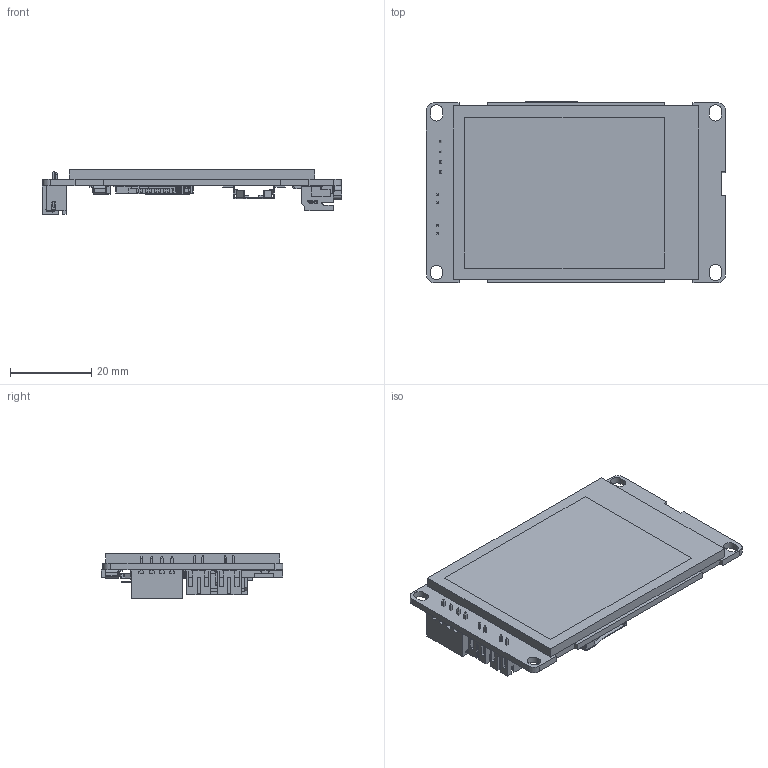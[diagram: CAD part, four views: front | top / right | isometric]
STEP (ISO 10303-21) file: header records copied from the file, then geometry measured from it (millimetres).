
FILE_DESCRIPTION(/* description */ (''),/* implementation_level */ '2;1');
FILE_NAME(/* name */ 'C:\Users\zhaoyunqi\Desktop\MA24-XH2.0\MA24-STP模型.stp',/* time_stamp */ '2025-12-26T14:07:09+08:00',/* author */ ('zhaoyunqi'),/* organization */ (''),/* preprocessor_version */ 'ST-DEVELOPER v18',/* originating_system */ 'Autodesk Inventor 2020',/* authorisation */ '');
FILE_SCHEMA (('AUTOMOTIVE_DESIGN { 1 0 10303 214 3 1 1 }'));
Products named in the file (18): 模型; 板体; FPC-0.50-14P; FPC-SMD_14P-P0.50_AFC07-S14FCA-00~FPC-SMD_14P-P0.50_AFC07-S14FCC-00~a
w7c; CR-927; BAT-SMD_MY-927-02~BAT-SMD_MY-927-02~GGM5; FPC-0.50-6P; FPC-SMD_P0.50-6P_LCS-SJ-H2.0~FPC-SMD_P0.50-6P_LCS-SJ-H2.0~GGM5; TF; SIM-SMD_TF110-AG1-004~SIM-SMD_TF110-AG1-004~GGM5; TYPE-C-16P; USB_TYPE-C-16P~USB-C_SMD-TYPE-C-31-M-12~GGM5; XH_4P-P2.50; CONN-SMD_4P-P2.50-WT~CONN-SMD_4P-P2.50-WT~GGM5; XH2.54-4P; CONN-TH_4P-P2.50-XH2.54-4P~CONN-TH_4P-P2.50-XH2.54-4P~GGM5; XH2.0-2P; CONN-TH_2P-P2.00_HX-2.0MM-2P-ZZ~CONN-TH_2P-P2.00_HX-2.0MM-2P-ZZ~nuVk
Assembly tree (18 placements, depth 3):
  模型
    板体
    FPC-0.50-14P
      FPC-SMD_14P-P0.50_AFC07-S14FCA-00~FPC-SMD_14P-P0.50_AFC07-S14FCC-00~a
w7c
    CR-927
      BAT-SMD_MY-927-02~BAT-SMD_MY-927-02~GGM5
    FPC-0.50-6P
      FPC-SMD_P0.50-6P_LCS-SJ-H2.0~FPC-SMD_P0.50-6P_LCS-SJ-H2.0~GGM5
    TF
      SIM-SMD_TF110-AG1-004~SIM-SMD_TF110-AG1-004~GGM5
    TYPE-C-16P
      USB_TYPE-C-16P~USB-C_SMD-TYPE-C-31-M-12~GGM5
    XH_4P-P2.50
      CONN-SMD_4P-P2.50-WT~CONN-SMD_4P-P2.50-WT~GGM5
    XH2.54-4P
      CONN-TH_4P-P2.50-XH2.54-4P~CONN-TH_4P-P2.50-XH2.54-4P~GGM5
    XH2.0-2P  x2
      CONN-TH_2P-P2.00_HX-2.0MM-2P-ZZ~CONN-TH_2P-P2.00_HX-2.0MM-2P-ZZ~nuVk
Bounding box: 73.5 x 44.65 x 11.05 mm (x, y, z)
Volume: 12566.4 mm3; surface area: 21516 mm2
Topology: 94 solids, 94 shells, 5672 faces, 15375 edges, 10024 vertices
Faces by surface type: plane 3868, bspline 1032, cylinder 666, torus 102, sphere 4
Full cylindrical faces by diameter (mm): 0.511 x2, 0.731 x1, 0.8 x2, 1.5 x2
Entity records: 183474 total; most frequent: CARTESIAN_POINT 46081, ORIENTED_EDGE 28938, DIRECTION 24369, EDGE_CURVE 14469, LINE 11169, VECTOR 11169, VERTEX_POINT 9424, AXIS2_PLACEMENT_3D 6600
